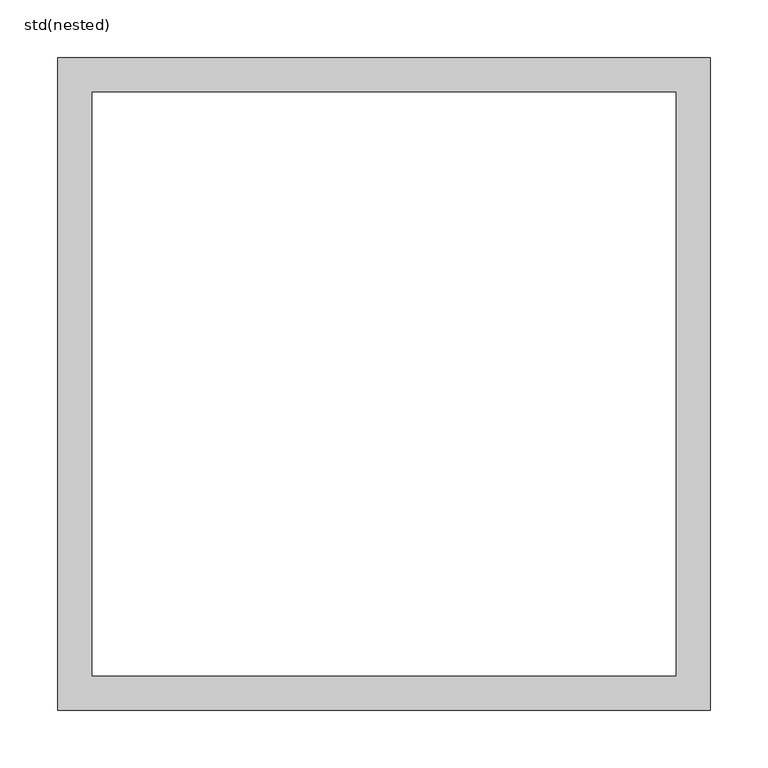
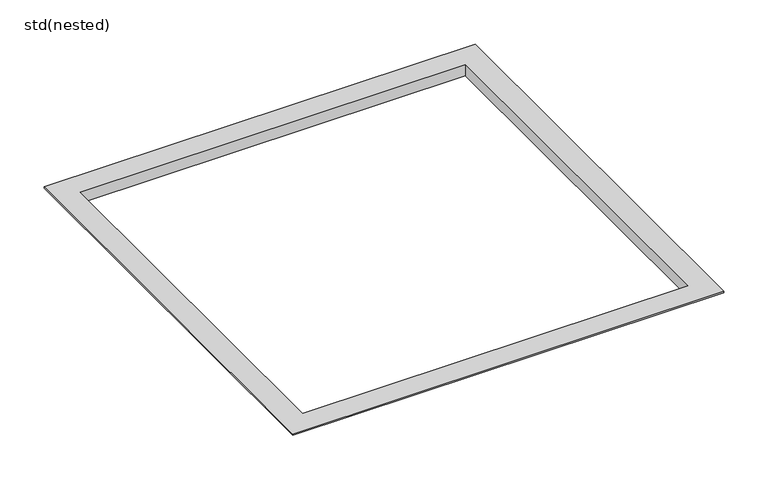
"""IFC4 building model written with IfcOpenShell, lengths in millimetres: furniture geometry, ZZZ_do not use_GM_WPB_flushframe_single connection_ACO : std(nested)."""

from ifc_helpers import new_model, si_unit, origin, place, context, project, spatial, faceted_brep, source, transform, mapped, element, save


def std_nested_dbb9a782(model_context):
    return source(origin(), model_context, "Body", "Brep", [
        faceted_brep([(254.5, 254.5, -15.0), (254.5, 254.5, -2.0), (254.5, -254.5, -2.0), (254.5, -254.5, -15.0), (252.5, 252.5, 0.0), (252.5, 252.5, -15.0), (252.5, -252.5, -15.0), (252.5, -252.5, 0.0), (282.5, 282.5, -2.0), (282.5, 282.5, 0.0), (282.5, -282.5, 0.0), (282.5, -282.5, -2.0), (-254.5, -254.5, -2.0), (-254.5, -254.5, -15.0), (-252.5, -252.5, -15.0), (-252.5, -252.5, 0.0), (-282.5, -282.5, 0.0), (-282.5, -282.5, -2.0), (-254.5, 254.5, -2.0), (-254.5, 254.5, -15.0), (-252.5, 252.5, -15.0), (-252.5, 252.5, 0.0), (-282.5, 282.5, 0.0), (-282.5, 282.5, -2.0)], [[[0, 1, 2, 3]], [[4, 5, 6, 7]], [[8, 9, 10, 11]], [[3, 2, 12, 13]], [[7, 6, 14, 15]], [[11, 10, 16, 17]], [[13, 12, 18, 19]], [[15, 14, 20, 21]], [[17, 16, 22, 23]], [[11, 17, 23, 8], [1, 18, 12, 2]], [[19, 18, 1, 0]], [[3, 13, 19, 0], [5, 20, 14, 6]], [[21, 20, 5, 4]], [[9, 22, 16, 10], [7, 15, 21, 4]], [[23, 22, 9, 8]]]),
    ])


if __name__ == "__main__":
    model = new_model("IFC4")
    model_context = context("Model", 3, world=origin())
    ifc_project = project(units=[si_unit("LENGTHUNIT", "METRE", prefix="MILLI")], contexts=[model_context])
    site = spatial("IfcSite", under=ifc_project)
    building = spatial("IfcBuilding", under=site)
    placement = place(None, origin())
    std_nested_shape = std_nested_dbb9a782(model_context)
    element("IfcFurniture", 1, ObjectType="ZZZ_do not use_GM_WPB_flushframe_single connection_ACO : std(nested)", at=placement, inside=building, context=model_context, shape_type="MappedRepresentation", body=[
        mapped(std_nested_shape, transform((0.0, 0.0, 0.0), x_axis=(1.0, 0.0, 0.0), y_axis=(0.0, 1.0, 0.0), z_axis=(0.0, 0.0, 1.0))),
    ])
    save(model, "model.ifc")
